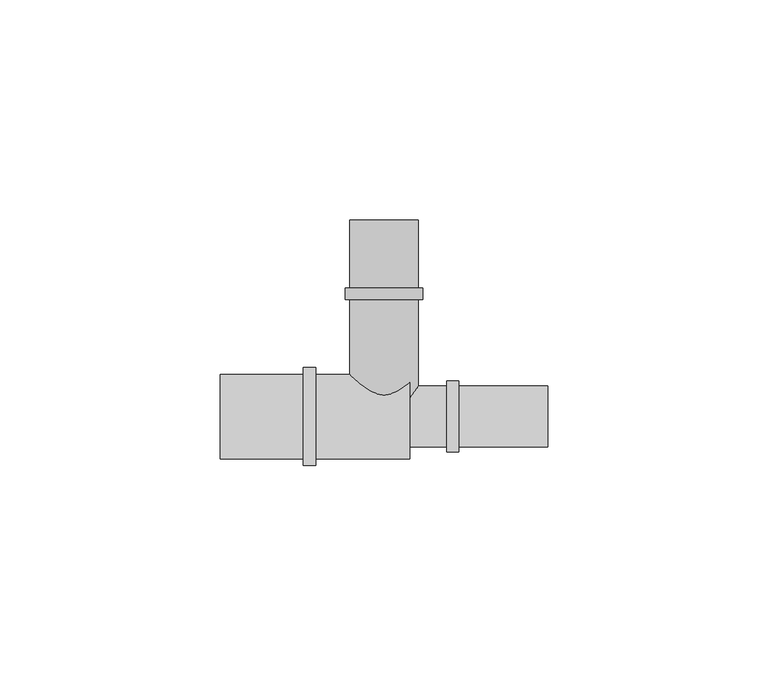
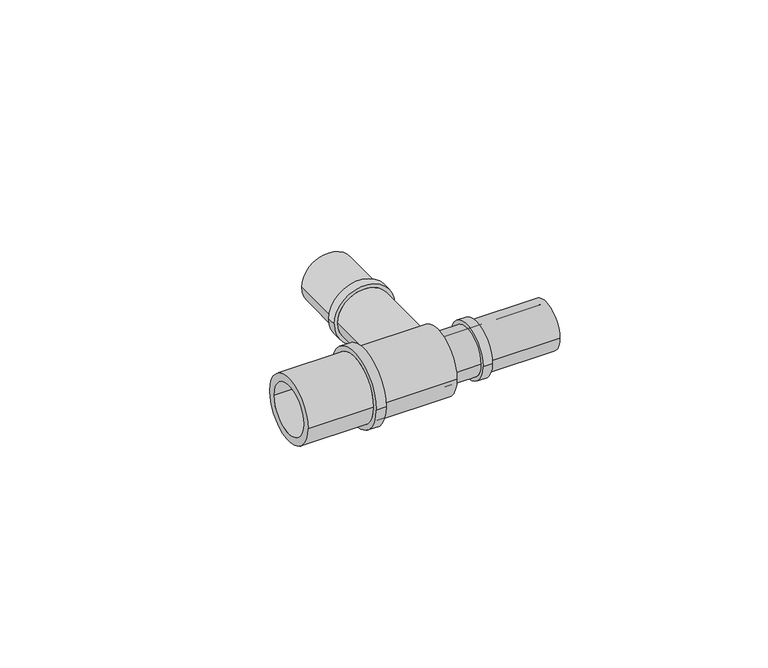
"""IFC4 building model written with IfcOpenShell, lengths in millimetres: pipe fitting geometry, FASTLOC_T-piece_LX : FSL T-Piece LX PL."""

from ifc_helpers import new_model, si_unit, frame, origin, place, context, project, spatial, polyline, circle_curve, source, transform, mapped, element, save
from ifc_brep_helpers import plane_surface, cylinder_surface, revolved_surface, advanced_brep


def pipe_fitting_d24b7152(model_context):
    return source(origin(), model_context, "Body", "AdvancedBrep", [
        advanced_brep(
        [(5.75, 44.6, 0.0), (-5.75, 44.6, 0.0), (-5.75, 0.0, 0.0), (5.75, 0.0, 0.0), (7.75, 0.0, 0.0), (-7.75, 0.0, 0.0), (-7.75, 26.53, 0.0), (7.75, 26.53, 0.0), (8.8, 26.53, 0.0), (-8.8, 26.53, 0.0), (-8.8, 29.2, 0.0), (8.8, 29.2, 0.0), (7.75, 29.2, 0.0), (-7.75, 29.2, 0.0), (-7.75, 44.6, 0.0), (7.75, 44.6, 0.0)],
        [
            (0, 1, circle_curve(frame((0.0, 44.6, 0.0), z_axis=(0.0, 1.0, 0.0), x_axis=(-1.0, 0.0, 0.0)), 5.75)),
            (1, 2),
            (2, 3, circle_curve(frame((0.0, 0.0, 0.0), z_axis=(0.0, -1.0, 0.0), x_axis=(-1.0, 0.0, 0.0)), 5.75)),
            (3, 0),
            (4, 5, circle_curve(frame((0.0, 0.0, 0.0), z_axis=(0.0, 1.0, 0.0), x_axis=(-1.0, 0.0, 0.0)), 7.75)),
            (5, 6),
            (6, 7, circle_curve(frame((0.0, 26.53, 0.0), z_axis=(0.0, -1.0, 0.0), x_axis=(-1.0, 0.0, 0.0)), 7.75)),
            (7, 4),
            (8, 9, circle_curve(frame((0.0, 26.53, 0.0), z_axis=(0.0, 1.0, 0.0), x_axis=(-1.0, 0.0, 0.0)), 8.8)),
            (9, 10),
            (10, 11, circle_curve(frame((0.0, 29.2, 0.0), z_axis=(0.0, -1.0, 0.0), x_axis=(-1.0, 0.0, 0.0)), 8.8)),
            (11, 8),
            (12, 13, circle_curve(frame((0.0, 29.2, 0.0), z_axis=(0.0, 1.0, 0.0), x_axis=(-1.0, 0.0, 0.0)), 7.75)),
            (13, 14),
            (14, 15, circle_curve(frame((0.0, 44.6, 0.0), z_axis=(0.0, -1.0, 0.0), x_axis=(-1.0, 0.0, 0.0)), 7.75)),
            (15, 12),
            (1, 0, circle_curve(frame((0.0, 44.6, 0.0), z_axis=(0.0, 1.0, 0.0), x_axis=(1.0, 0.0, 0.0)), 5.75)),
            (3, 2, circle_curve(frame((0.0, 0.0, 0.0), z_axis=(0.0, -1.0, 0.0), x_axis=(1.0, 0.0, 0.0)), 5.75)),
            (4, 5, circle_curve(frame((0.0, 0.0, 0.0), z_axis=(0.0, -1.0, 0.0), x_axis=(1.0, 0.0, 0.0)), 7.75)),
            (7, 6, circle_curve(frame((0.0, 26.53, 0.0), z_axis=(0.0, -1.0, 0.0), x_axis=(1.0, 0.0, 0.0)), 7.75)),
            (8, 9, circle_curve(frame((0.0, 26.53, 0.0), z_axis=(0.0, -1.0, 0.0), x_axis=(1.0, 0.0, 0.0)), 8.8)),
            (11, 10, circle_curve(frame((0.0, 29.2, 0.0), z_axis=(0.0, -1.0, 0.0), x_axis=(1.0, 0.0, 0.0)), 8.8)),
            (12, 13, circle_curve(frame((0.0, 29.2, 0.0), z_axis=(0.0, -1.0, 0.0), x_axis=(1.0, 0.0, 0.0)), 7.75)),
            (15, 14, circle_curve(frame((0.0, 44.6, 0.0), z_axis=(0.0, -1.0, 0.0), x_axis=(1.0, 0.0, 0.0)), 7.75)),
        ],
        [
            revolved_surface(polyline([(-5.75, 0.0, 0.0), (-5.75, 44.6, 0.0)]), (0.0, 0.0, 0.0), (0.0, -1.0, 0.0)),
            cylinder_surface(frame((0.0, 0.0, 0.0), z_axis=(0.0, -1.0, 0.0), x_axis=(-1.0, 0.0, 0.0)), 7.75),
            cylinder_surface(frame((0.0, 0.0, 0.0), z_axis=(0.0, -1.0, 0.0), x_axis=(-1.0, 0.0, 0.0)), 8.8),
            revolved_surface(polyline([(5.75, 0.0, 0.0), (5.75, 44.6, 0.0)]), (0.0, 0.0, 0.0), (0.0, -1.0, 0.0)),
            plane_surface(frame((0.0, 0.0, 0.0), z_axis=(0.0, -1.0, 0.0), x_axis=(1.0, 0.0, 0.0))),
            cylinder_surface(frame((0.0, 0.0, 0.0), z_axis=(0.0, -1.0, 0.0), x_axis=(1.0, 0.0, 0.0)), 7.75),
            plane_surface(frame((0.0, 26.53, 0.0), z_axis=(0.0, -1.0, 0.0), x_axis=(1.0, 0.0, 0.0))),
            cylinder_surface(frame((0.0, 0.0, 0.0), z_axis=(0.0, -1.0, 0.0), x_axis=(1.0, 0.0, 0.0)), 8.8),
            plane_surface(frame((0.0, 29.2, 0.0), z_axis=(0.0, 1.0, 0.0), x_axis=(1.0, 0.0, 0.0))),
            plane_surface(frame((0.0, 44.6, 0.0), z_axis=(0.0, 1.0, 0.0), x_axis=(1.0, 0.0, 0.0))),
        ],
        [
            (0, [[1, 2, 3, 4]]),
            (1, [[5, 6, 7, 8]]),
            (2, [[9, 10, 11, 12]]),
            (1, [[13, 14, 15, 16]]),
            (3, [[17, -4, 18, -2]]),
            (4, [[19, -5], [-18, -3]]),
            (5, [[-19, -8, 20, -6]]),
            (6, [[21, -9], [-20, -7]]),
            (7, [[-21, -12, 22, -10]]),
            (8, [[-22, -11], [23, -13]]),
            (5, [[-23, -16, 24, -14]]),
            (9, [[-24, -15], [-17, -1]]),
        ],
    ),
        advanced_brep(
        [(14.29, 6.95, 0.0), (14.29, -6.95, 0.0), (5.85, -6.95, 0.0), (5.85, 6.95, 0.0), (17.0, 8.05, 0.0), (17.0, -8.05, 0.0), (14.29, -8.05, 0.0), (14.29, 8.05, 0.0), (37.15, 6.95, 0.0), (37.15, -6.95, 0.0), (17.0, -6.95, 0.0), (17.0, 6.95, 0.0), (4.0, 5.1, 0.0), (4.0, -5.1, 0.0), (37.15, -5.1, 0.0), (37.15, 5.1, 0.0), (-37.15, 7.35, 0.0), (-37.15, -7.35, 0.0), (4.0, -7.35, 0.0), (4.0, 7.35, 0.0), (-18.3, 9.6, 0.0), (-18.3, -9.6, 0.0), (-37.15, -9.6, 0.0), (-37.15, 9.6, 0.0), (-15.5, 11.1, 0.0), (-15.5, -11.1, 0.0), (-18.3, -11.1, 0.0), (-18.3, 11.1, 0.0), (5.85, 9.6, 0.0), (5.85, -9.6, 0.0), (-15.5, -9.6, 0.0), (-15.5, 9.6, 0.0)],
        [
            (0, 1, circle_curve(frame((14.29, 0.0, 0.0), z_axis=(-1.0, 0.0, 0.0), x_axis=(0.0, -1.0, 0.0)), 6.95)),
            (1, 2),
            (2, 3, circle_curve(frame((5.85, 0.0, 0.0), z_axis=(1.0, 0.0, 0.0), x_axis=(0.0, -1.0, 0.0)), 6.95)),
            (3, 0),
            (4, 5, circle_curve(frame((17.0, 0.0, 0.0), z_axis=(-1.0, 0.0, 0.0), x_axis=(0.0, -1.0, 0.0)), 8.05)),
            (5, 6),
            (6, 7, circle_curve(frame((14.29, 0.0, 0.0), z_axis=(1.0, 0.0, 0.0), x_axis=(0.0, -1.0, 0.0)), 8.05)),
            (7, 4),
            (8, 9, circle_curve(frame((37.15, 0.0, 0.0), z_axis=(-1.0, 0.0, 0.0), x_axis=(0.0, -1.0, 0.0)), 6.95)),
            (9, 10),
            (10, 11, circle_curve(frame((17.0, 0.0, 0.0), z_axis=(1.0, 0.0, 0.0), x_axis=(0.0, -1.0, 0.0)), 6.95)),
            (11, 8),
            (12, 13, circle_curve(frame((4.0, 0.0, 0.0), z_axis=(-1.0, 0.0, 0.0), x_axis=(0.0, -1.0, 0.0)), 5.1)),
            (13, 14),
            (14, 15, circle_curve(frame((37.15, 0.0, 0.0), z_axis=(1.0, 0.0, 0.0), x_axis=(0.0, -1.0, 0.0)), 5.1)),
            (15, 12),
            (16, 17, circle_curve(frame((-37.15, 0.0, 0.0), z_axis=(-1.0, 0.0, 0.0), x_axis=(0.0, -1.0, 0.0)), 7.35)),
            (17, 18),
            (18, 19, circle_curve(frame((4.0, 0.0, 0.0), z_axis=(1.0, 0.0, 0.0), x_axis=(0.0, -1.0, 0.0)), 7.35)),
            (19, 16),
            (20, 21, circle_curve(frame((-18.3, 0.0, 0.0), z_axis=(-1.0, 0.0, 0.0), x_axis=(0.0, -1.0, 0.0)), 9.6)),
            (21, 22),
            (22, 23, circle_curve(frame((-37.15, 0.0, 0.0), z_axis=(1.0, 0.0, 0.0), x_axis=(0.0, -1.0, 0.0)), 9.6)),
            (23, 20),
            (24, 25, circle_curve(frame((-15.5, 0.0, 0.0), z_axis=(-1.0, 0.0, 0.0), x_axis=(0.0, -1.0, 0.0)), 11.1)),
            (25, 26),
            (26, 27, circle_curve(frame((-18.3, 0.0, 0.0), z_axis=(1.0, 0.0, 0.0), x_axis=(0.0, -1.0, 0.0)), 11.1)),
            (27, 24),
            (28, 29, circle_curve(frame((5.85, 0.0, 0.0), z_axis=(-1.0, 0.0, 0.0), x_axis=(0.0, -1.0, 0.0)), 9.6)),
            (29, 30),
            (30, 31, circle_curve(frame((-15.5, 0.0, 0.0), z_axis=(1.0, 0.0, 0.0), x_axis=(0.0, -1.0, 0.0)), 9.6)),
            (31, 28),
            (28, 29, circle_curve(frame((5.85, 0.0, 0.0), z_axis=(1.0, 0.0, 0.0), x_axis=(0.0, 1.0, 0.0)), 9.6)),
            (2, 3, circle_curve(frame((5.85, 0.0, 0.0), z_axis=(-1.0, 0.0, 0.0), x_axis=(0.0, 1.0, 0.0)), 6.95)),
            (1, 0, circle_curve(frame((14.29, 0.0, 0.0), z_axis=(-1.0, 0.0, 0.0), x_axis=(0.0, 1.0, 0.0)), 6.95)),
            (6, 7, circle_curve(frame((14.29, 0.0, 0.0), z_axis=(-1.0, 0.0, 0.0), x_axis=(0.0, 1.0, 0.0)), 8.05)),
            (5, 4, circle_curve(frame((17.0, 0.0, 0.0), z_axis=(-1.0, 0.0, 0.0), x_axis=(0.0, 1.0, 0.0)), 8.05)),
            (10, 11, circle_curve(frame((17.0, 0.0, 0.0), z_axis=(-1.0, 0.0, 0.0), x_axis=(0.0, 1.0, 0.0)), 6.95)),
            (9, 8, circle_curve(frame((37.15, 0.0, 0.0), z_axis=(-1.0, 0.0, 0.0), x_axis=(0.0, 1.0, 0.0)), 6.95)),
            (14, 15, circle_curve(frame((37.15, 0.0, 0.0), z_axis=(-1.0, 0.0, 0.0), x_axis=(0.0, 1.0, 0.0)), 5.1)),
            (13, 12, circle_curve(frame((4.0, 0.0, 0.0), z_axis=(-1.0, 0.0, 0.0), x_axis=(0.0, 1.0, 0.0)), 5.1)),
            (18, 19, circle_curve(frame((4.0, 0.0, 0.0), z_axis=(-1.0, 0.0, 0.0), x_axis=(0.0, 1.0, 0.0)), 7.35)),
            (17, 16, circle_curve(frame((-37.15, 0.0, 0.0), z_axis=(-1.0, 0.0, 0.0), x_axis=(0.0, 1.0, 0.0)), 7.35)),
            (22, 23, circle_curve(frame((-37.15, 0.0, 0.0), z_axis=(-1.0, 0.0, 0.0), x_axis=(0.0, 1.0, 0.0)), 9.6)),
            (21, 20, circle_curve(frame((-18.3, 0.0, 0.0), z_axis=(-1.0, 0.0, 0.0), x_axis=(0.0, 1.0, 0.0)), 9.6)),
            (26, 27, circle_curve(frame((-18.3, 0.0, 0.0), z_axis=(-1.0, 0.0, 0.0), x_axis=(0.0, 1.0, 0.0)), 11.1)),
            (25, 24, circle_curve(frame((-15.5, 0.0, 0.0), z_axis=(-1.0, 0.0, 0.0), x_axis=(0.0, 1.0, 0.0)), 11.1)),
            (30, 31, circle_curve(frame((-15.5, 0.0, 0.0), z_axis=(-1.0, 0.0, 0.0), x_axis=(0.0, 1.0, 0.0)), 9.6)),
        ],
        [
            cylinder_surface(frame((0.0, 0.0, 0.0), z_axis=(1.0, 0.0, 0.0), x_axis=(0.0, -1.0, 0.0)), 6.95),
            cylinder_surface(frame((0.0, 0.0, 0.0), z_axis=(1.0, 0.0, 0.0), x_axis=(0.0, -1.0, 0.0)), 8.05),
            revolved_surface(polyline([(37.15, -5.1, 0.0), (4.0, -5.1, 0.0)]), (0.0, 0.0, 0.0), (1.0, 0.0, 0.0)),
            revolved_surface(polyline([(4.0, -7.35, 0.0), (-37.15, -7.35, 0.0)]), (0.0, 0.0, 0.0), (1.0, 0.0, 0.0)),
            cylinder_surface(frame((0.0, 0.0, 0.0), z_axis=(1.0, 0.0, 0.0), x_axis=(0.0, -1.0, 0.0)), 9.6),
            cylinder_surface(frame((0.0, 0.0, 0.0), z_axis=(1.0, 0.0, 0.0), x_axis=(0.0, -1.0, 0.0)), 11.1),
            plane_surface(frame((5.85, 0.0, 0.0), z_axis=(1.0, 0.0, 0.0), x_axis=(0.0, 1.0, 0.0))),
            cylinder_surface(frame((0.0, 0.0, 0.0), z_axis=(1.0, 0.0, 0.0), x_axis=(0.0, 1.0, 0.0)), 6.95),
            plane_surface(frame((14.29, 0.0, 0.0), z_axis=(-1.0, 0.0, 0.0), x_axis=(0.0, 1.0, 0.0))),
            cylinder_surface(frame((0.0, 0.0, 0.0), z_axis=(1.0, 0.0, 0.0), x_axis=(0.0, 1.0, 0.0)), 8.05),
            plane_surface(frame((17.0, 0.0, 0.0), z_axis=(1.0, 0.0, 0.0), x_axis=(0.0, 1.0, 0.0))),
            plane_surface(frame((37.15, 0.0, 0.0), z_axis=(1.0, 0.0, 0.0), x_axis=(0.0, 1.0, 0.0))),
            revolved_surface(polyline([(37.15, 5.1, 0.0), (4.0, 5.1, 0.0)]), (0.0, 0.0, 0.0), (1.0, 0.0, 0.0)),
            plane_surface(frame((4.0, 0.0, 0.0), z_axis=(-1.0, 0.0, 0.0), x_axis=(0.0, 1.0, 0.0))),
            revolved_surface(polyline([(4.0, 7.35, 0.0), (-37.15, 7.35, 0.0)]), (0.0, 0.0, 0.0), (1.0, 0.0, 0.0)),
            plane_surface(frame((-37.15, 0.0, 0.0), z_axis=(-1.0, 0.0, 0.0), x_axis=(0.0, 1.0, 0.0))),
            cylinder_surface(frame((0.0, 0.0, 0.0), z_axis=(1.0, 0.0, 0.0), x_axis=(0.0, 1.0, 0.0)), 9.6),
            plane_surface(frame((-18.3, 0.0, 0.0), z_axis=(-1.0, 0.0, 0.0), x_axis=(0.0, 1.0, 0.0))),
            cylinder_surface(frame((0.0, 0.0, 0.0), z_axis=(1.0, 0.0, 0.0), x_axis=(0.0, 1.0, 0.0)), 11.1),
            plane_surface(frame((-15.5, 0.0, 0.0), z_axis=(1.0, 0.0, 0.0), x_axis=(0.0, 1.0, 0.0))),
        ],
        [
            (0, [[1, 2, 3, 4]]),
            (1, [[5, 6, 7, 8]]),
            (0, [[9, 10, 11, 12]]),
            (2, [[13, 14, 15, 16]]),
            (3, [[17, 18, 19, 20]]),
            (4, [[21, 22, 23, 24]]),
            (5, [[25, 26, 27, 28]]),
            (4, [[29, 30, 31, 32]]),
            (6, [[33, -29], [34, -3]]),
            (7, [[35, -4, -34, -2]]),
            (8, [[36, -7], [-35, -1]]),
            (9, [[37, -8, -36, -6]]),
            (10, [[-37, -5], [38, -11]]),
            (7, [[39, -12, -38, -10]]),
            (11, [[-39, -9], [40, -15]]),
            (12, [[41, -16, -40, -14]]),
            (13, [[42, -19], [-41, -13]]),
            (14, [[43, -20, -42, -18]]),
            (15, [[44, -23], [-43, -17]]),
            (16, [[45, -24, -44, -22]]),
            (17, [[46, -27], [-45, -21]]),
            (18, [[47, -28, -46, -26]]),
            (19, [[-47, -25], [48, -31]]),
            (16, [[-33, -32, -48, -30]]),
        ],
    ),
    ])


if __name__ == "__main__":
    model = new_model("IFC4")
    model_context = context("Model", 3, world=origin())
    ifc_project = project(units=[si_unit("LENGTHUNIT", "METRE", prefix="MILLI")], contexts=[model_context])
    site = spatial("IfcSite", under=ifc_project)
    building = spatial("IfcBuilding", under=site)
    placement = place(None, origin())
    pipe_fitting_shape = pipe_fitting_d24b7152(model_context)
    element("IfcPipeFitting", 1, ObjectType="FASTLOC_T-piece_LX : FSL T-Piece LX PL", at=placement, inside=building, context=model_context, shape_type="MappedRepresentation", body=[
        mapped(pipe_fitting_shape, transform((0.0, 0.0, 0.0), x_axis=(1.0, 0.0, 0.0), y_axis=(0.0, 1.0, 0.0), z_axis=(0.0, 0.0, 1.0))),
    ])
    save(model, "model.ifc")
